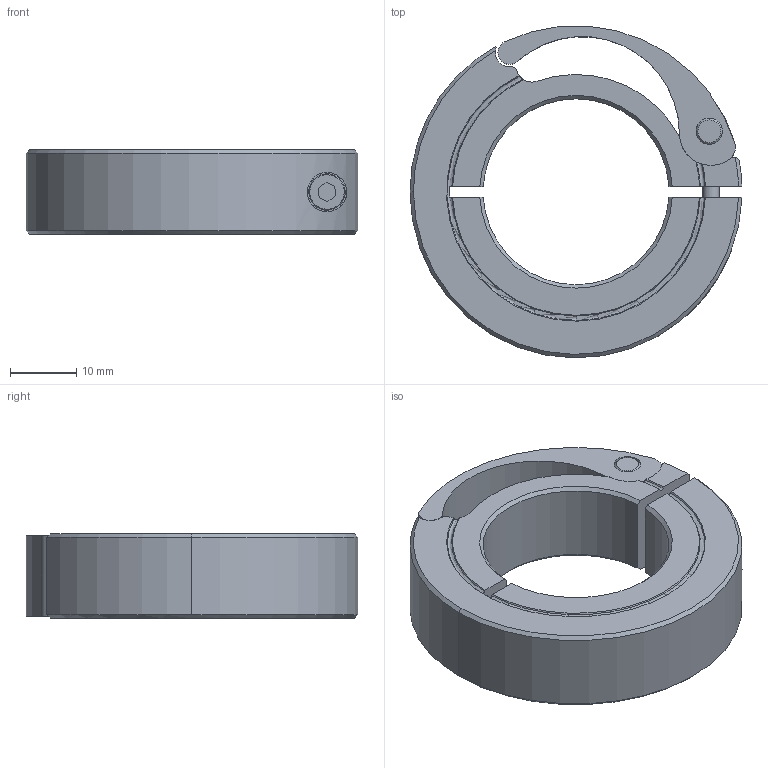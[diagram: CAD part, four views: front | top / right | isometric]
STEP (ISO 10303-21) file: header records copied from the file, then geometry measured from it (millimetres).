
FILE_DESCRIPTION (( 'STEP AP203' ), '1' );
FILE_NAME ('Ruland_MQCL-28-A.step', '2017-08-22T11:22:24', ( '' ), ( '' ), 'SwSTEP 2.0', 'SolidWorks 2017', '' );
FILE_SCHEMA (( 'CONFIG_CONTROL_DESIGN' ));
Length unit declared in the file: inch
Products named in the file (5): QHANDLE50-A_QHANDLE50-A; QCL50-X-A_MQCL-28-A-C; Metric Socket Head Cap Screws 1_CFM3_12; QPINXX-SS_QPIN50-SS; Ruland_MQCL-28-A
Assembly tree (4 placements, depth 2):
  Ruland_MQCL-28-A
    QCL50-X-A_MQCL-28-A-C
    QPINXX-SS_QPIN50-SS
    QHANDLE50-A_QHANDLE50-A
    Metric Socket Head Cap Screws 1_CFM3_12
Bounding box: 49.99 x 49.94 x 12.7 mm (x, y, z)
Volume: 14537.7 mm3; surface area: 7628 mm2
Topology: 4 solids, 4 shells, 95 faces, 239 edges, 155 vertices
Faces by surface type: cylinder 38, plane 29, cone 26, torus 2
Entity records: 3685 total; most frequent: CARTESIAN_POINT 820, DIRECTION 515, ORIENTED_EDGE 478, EDGE_CURVE 239, AXIS2_PLACEMENT_3D 207, VERTEX_POINT 155, EDGE_LOOP 108, CIRCLE 105
